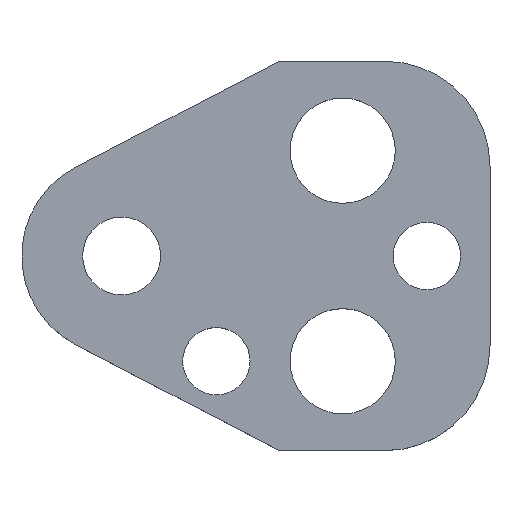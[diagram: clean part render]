
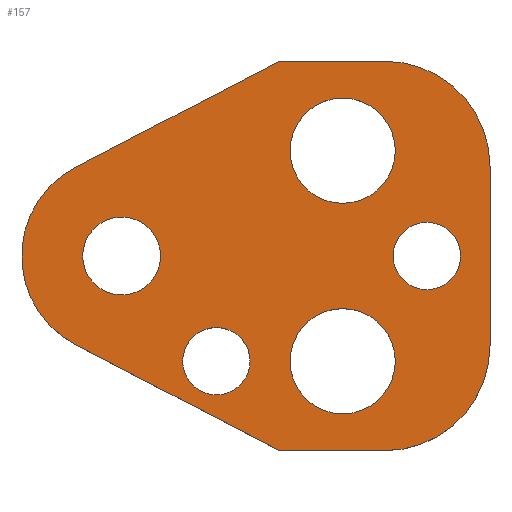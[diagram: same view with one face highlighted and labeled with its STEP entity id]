
A CAD part, top view. The second image highlights one B-rep face of the part: STEP entity #157.
In plain terms, the highlighted planar face has unit normal (0, 0, 1).
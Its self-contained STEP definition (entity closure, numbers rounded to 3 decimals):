
#103=FACE_BOUND('',#207,.T.);
#104=FACE_BOUND('',#208,.T.);
#105=FACE_BOUND('',#209,.T.);
#106=FACE_BOUND('',#210,.T.);
#107=FACE_BOUND('',#211,.T.);
#108=FACE_BOUND('',#212,.T.);
#122=CIRCLE('',#480,10.);
#124=CIRCLE('',#484,10.);
#127=CIRCLE('',#490,9.5);
#138=CIRCLE('',#503,3.2);
#139=CIRCLE('',#504,3.2);
#140=CIRCLE('',#505,5.);
#141=CIRCLE('',#506,5.);
#142=CIRCLE('',#507,5.);
#143=CIRCLE('',#508,5.);
#144=CIRCLE('',#509,3.2);
#145=CIRCLE('',#510,3.2);
#146=CIRCLE('',#511,3.7);
#147=CIRCLE('',#512,3.7);
#157=ADVANCED_FACE('',(#103,#104,#105,#106,#107,#108),#174,.T.);
#174=PLANE('',#513);
#207=EDGE_LOOP('',(#273,#274,#275,#276,#277,#278,#279,#280));
#208=EDGE_LOOP('',(#281,#282));
#209=EDGE_LOOP('',(#283,#284));
#210=EDGE_LOOP('',(#285,#286));
#211=EDGE_LOOP('',(#287,#288));
#212=EDGE_LOOP('',(#289,#290));
#273=ORIENTED_EDGE('',*,*,#368,.T.);
#274=ORIENTED_EDGE('',*,*,#372,.T.);
#275=ORIENTED_EDGE('',*,*,#375,.T.);
#276=ORIENTED_EDGE('',*,*,#378,.T.);
#277=ORIENTED_EDGE('',*,*,#381,.T.);
#278=ORIENTED_EDGE('',*,*,#384,.T.);
#279=ORIENTED_EDGE('',*,*,#387,.T.);
#280=ORIENTED_EDGE('',*,*,#390,.T.);
#281=ORIENTED_EDGE('',*,*,#401,.T.);
#282=ORIENTED_EDGE('',*,*,#402,.T.);
#283=ORIENTED_EDGE('',*,*,#403,.T.);
#284=ORIENTED_EDGE('',*,*,#404,.T.);
#285=ORIENTED_EDGE('',*,*,#405,.T.);
#286=ORIENTED_EDGE('',*,*,#406,.T.);
#287=ORIENTED_EDGE('',*,*,#407,.T.);
#288=ORIENTED_EDGE('',*,*,#408,.T.);
#289=ORIENTED_EDGE('',*,*,#409,.T.);
#290=ORIENTED_EDGE('',*,*,#410,.T.);
#332=VERTEX_POINT('',#649);
#333=VERTEX_POINT('',#651);
#336=VERTEX_POINT('',#658);
#338=VERTEX_POINT('',#664);
#340=VERTEX_POINT('',#670);
#342=VERTEX_POINT('',#676);
#344=VERTEX_POINT('',#682);
#346=VERTEX_POINT('',#688);
#357=VERTEX_POINT('',#717);
#358=VERTEX_POINT('',#718);
#359=VERTEX_POINT('',#721);
#360=VERTEX_POINT('',#722);
#361=VERTEX_POINT('',#725);
#362=VERTEX_POINT('',#726);
#363=VERTEX_POINT('',#729);
#364=VERTEX_POINT('',#730);
#365=VERTEX_POINT('',#733);
#366=VERTEX_POINT('',#734);
#368=EDGE_CURVE('',#333,#332,#422,.T.);
#372=EDGE_CURVE('',#332,#336,#426,.T.);
#375=EDGE_CURVE('',#336,#338,#122,.T.);
#378=EDGE_CURVE('',#338,#340,#430,.T.);
#381=EDGE_CURVE('',#340,#342,#124,.T.);
#384=EDGE_CURVE('',#342,#344,#434,.T.);
#387=EDGE_CURVE('',#344,#346,#437,.T.);
#390=EDGE_CURVE('',#346,#333,#127,.T.);
#401=EDGE_CURVE('',#357,#358,#138,.T.);
#402=EDGE_CURVE('',#358,#357,#139,.T.);
#403=EDGE_CURVE('',#359,#360,#140,.T.);
#404=EDGE_CURVE('',#360,#359,#141,.T.);
#405=EDGE_CURVE('',#361,#362,#142,.T.);
#406=EDGE_CURVE('',#362,#361,#143,.T.);
#407=EDGE_CURVE('',#363,#364,#144,.T.);
#408=EDGE_CURVE('',#364,#363,#145,.T.);
#409=EDGE_CURVE('',#365,#366,#146,.T.);
#410=EDGE_CURVE('',#366,#365,#147,.T.);
#422=LINE('',#650,#450);
#426=LINE('',#659,#454);
#430=LINE('',#671,#458);
#434=LINE('',#683,#462);
#437=LINE('',#689,#465);
#450=VECTOR('',#527,1.);
#454=VECTOR('',#533,1.);
#458=VECTOR('',#545,1.);
#462=VECTOR('',#557,1.);
#465=VECTOR('',#562,1.);
#480=AXIS2_PLACEMENT_3D('',#665,#538,#539);
#484=AXIS2_PLACEMENT_3D('',#677,#550,#551);
#490=AXIS2_PLACEMENT_3D('',#693,#568,#569);
#503=AXIS2_PLACEMENT_3D('',#716,#594,#595);
#504=AXIS2_PLACEMENT_3D('',#719,#596,#597);
#505=AXIS2_PLACEMENT_3D('',#720,#598,#599);
#506=AXIS2_PLACEMENT_3D('',#723,#600,#601);
#507=AXIS2_PLACEMENT_3D('',#724,#602,#603);
#508=AXIS2_PLACEMENT_3D('',#727,#604,#605);
#509=AXIS2_PLACEMENT_3D('',#728,#606,#607);
#510=AXIS2_PLACEMENT_3D('',#731,#608,#609);
#511=AXIS2_PLACEMENT_3D('',#732,#610,#611);
#512=AXIS2_PLACEMENT_3D('',#735,#612,#613);
#513=AXIS2_PLACEMENT_3D('',#736,#614,#615);
#527=DIRECTION('',(0.887,-0.461,0.));
#533=DIRECTION('',(1.,0.,0.));
#538=DIRECTION('',(0.,0.,1.));
#539=DIRECTION('',(-0.707,0.707,0.));
#545=DIRECTION('',(0.,1.,0.));
#550=DIRECTION('',(0.,0.,1.));
#551=DIRECTION('',(-0.707,-0.707,0.));
#557=DIRECTION('',(-1.,0.,0.));
#562=DIRECTION('',(-0.887,-0.461,0.));
#568=DIRECTION('',(0.,0.,1.));
#569=DIRECTION('',(1.,0.,0.));
#594=DIRECTION('',(0.,0.,-1.));
#595=DIRECTION('',(-1.,0.,0.));
#596=DIRECTION('',(0.,0.,-1.));
#597=DIRECTION('',(1.,0.,0.));
#598=DIRECTION('',(0.,0.,-1.));
#599=DIRECTION('',(-1.,0.,0.));
#600=DIRECTION('',(0.,0.,-1.));
#601=DIRECTION('',(1.,0.,0.));
#602=DIRECTION('',(0.,0.,-1.));
#603=DIRECTION('',(-1.,0.,0.));
#604=DIRECTION('',(0.,0.,-1.));
#605=DIRECTION('',(1.,0.,0.));
#606=DIRECTION('',(0.,0.,-1.));
#607=DIRECTION('',(-1.,0.,0.));
#608=DIRECTION('',(0.,0.,-1.));
#609=DIRECTION('',(1.,0.,0.));
#610=DIRECTION('',(0.,0.,-1.));
#611=DIRECTION('',(-1.,0.,0.));
#612=DIRECTION('',(0.,0.,-1.));
#613=DIRECTION('',(1.,0.,0.));
#614=DIRECTION('',(0.,0.,1.));
#615=DIRECTION('',(0.887,-0.461,0.));
#649=CARTESIAN_POINT('',(15.,-18.5,5.));
#650=CARTESIAN_POINT('',(15.,-18.5,5.));
#651=CARTESIAN_POINT('',(-4.38,-8.43,5.));
#658=CARTESIAN_POINT('',(25.,-18.5,5.));
#659=CARTESIAN_POINT('',(15.,-18.5,5.));
#664=CARTESIAN_POINT('',(35.,-8.5,5.));
#665=CARTESIAN_POINT('',(25.,-8.5,5.));
#670=CARTESIAN_POINT('',(35.,8.5,5.));
#671=CARTESIAN_POINT('',(35.,8.5,5.));
#676=CARTESIAN_POINT('',(25.,18.5,5.));
#677=CARTESIAN_POINT('',(25.,8.5,5.));
#682=CARTESIAN_POINT('',(15.,18.5,5.));
#683=CARTESIAN_POINT('',(15.,18.5,5.));
#688=CARTESIAN_POINT('',(-4.38,8.43,5.));
#689=CARTESIAN_POINT('',(15.,18.5,5.));
#693=CARTESIAN_POINT('',(0.,0.,5.));
#716=CARTESIAN_POINT('',(29.,0.,5.));
#717=CARTESIAN_POINT('',(29.,3.2,5.));
#718=CARTESIAN_POINT('',(29.,-3.2,5.));
#719=CARTESIAN_POINT('',(29.,0.,5.));
#720=CARTESIAN_POINT('',(21.,10.,5.));
#721=CARTESIAN_POINT('',(21.,15.,5.));
#722=CARTESIAN_POINT('',(21.,5.,5.));
#723=CARTESIAN_POINT('',(21.,10.,5.));
#724=CARTESIAN_POINT('',(21.,-10.,5.));
#725=CARTESIAN_POINT('',(21.,-5.,5.));
#726=CARTESIAN_POINT('',(21.,-15.,5.));
#727=CARTESIAN_POINT('',(21.,-10.,5.));
#728=CARTESIAN_POINT('',(9.,-10.,5.));
#729=CARTESIAN_POINT('',(9.,-6.8,5.));
#730=CARTESIAN_POINT('',(9.,-13.2,5.));
#731=CARTESIAN_POINT('',(9.,-10.,5.));
#732=CARTESIAN_POINT('',(0.,0.,5.));
#733=CARTESIAN_POINT('',(0.,3.7,5.));
#734=CARTESIAN_POINT('',(0.,-3.7,5.));
#735=CARTESIAN_POINT('',(0.,0.,5.));
#736=CARTESIAN_POINT('',(-4.38,-8.43,5.));
